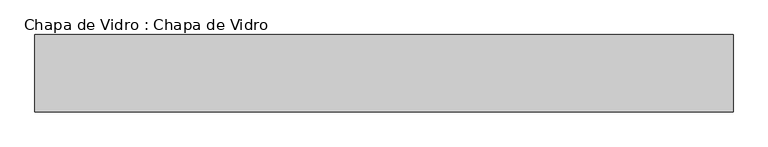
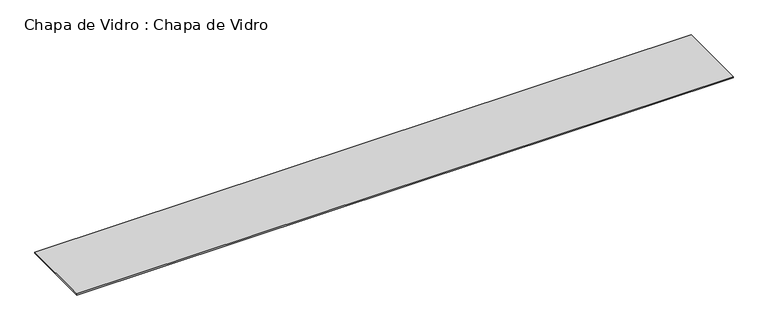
"""IFC4 building model written with IfcOpenShell, lengths in millimetres: furniture geometry, Chapa de Vidro : Chapa de Vidro."""

from ifc_helpers import new_model, si_unit, origin, origin_with_axes, place, context, project, spatial, polyline, outline, extrude, source, transform, mapped, element, save


def chapa_de_vidro_chapa_de_vidro_dba7908c(model_context):
    return source(origin(), model_context, "Body", "SweptSolid", [
        extrude(outline(polyline([(2800.0, 0.0), (0.0, 0.0), (0.0, 310.0), (2800.0, 310.0), (2800.0, 0.0)])), origin_with_axes(), (0.0, 0.0, 1.0), 5.0),
    ])


if __name__ == "__main__":
    model = new_model("IFC4")
    model_context = context("Model", 3, world=origin())
    ifc_project = project(units=[si_unit("LENGTHUNIT", "METRE", prefix="MILLI")], contexts=[model_context])
    site = spatial("IfcSite", under=ifc_project)
    building = spatial("IfcBuilding", under=site)
    placement = place(None, origin())
    chapa_de_vidro_chapa_de_vidro_shape = chapa_de_vidro_chapa_de_vidro_dba7908c(model_context)
    element("IfcFurniture", 1, ObjectType="Chapa de Vidro : Chapa de Vidro", at=placement, inside=building, context=model_context, shape_type="MappedRepresentation", body=[
        mapped(chapa_de_vidro_chapa_de_vidro_shape, transform((0.0, 0.0, 0.0), x_axis=(1.0, 0.0, 0.0), y_axis=(0.0, 1.0, 0.0), z_axis=(0.0, 0.0, 1.0))),
    ])
    save(model, "model.ifc")
